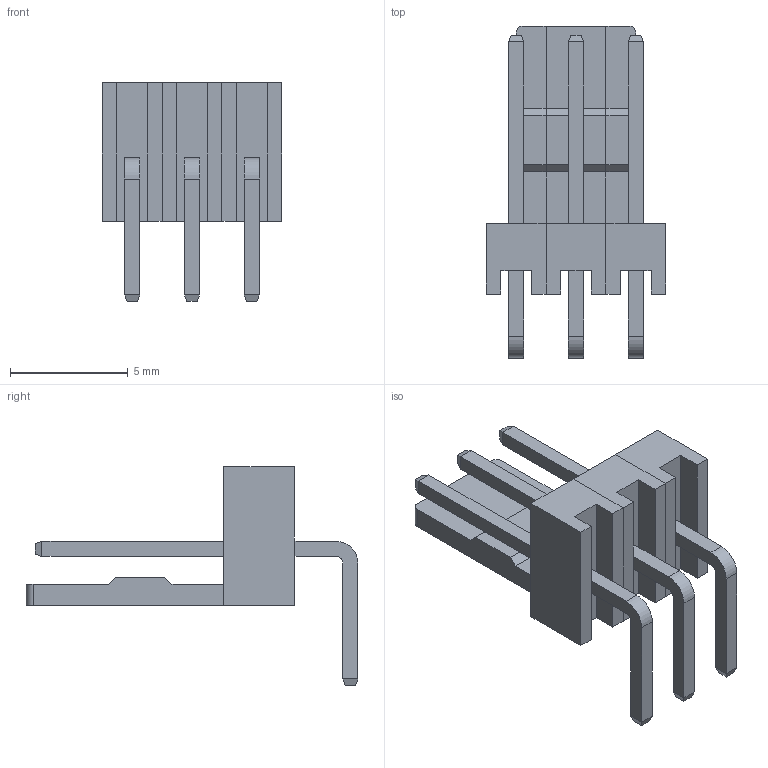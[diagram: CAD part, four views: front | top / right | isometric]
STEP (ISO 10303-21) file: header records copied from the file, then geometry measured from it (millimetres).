
FILE_DESCRIPTION(/* description */ (''),/* implementation_level */ '2;1');
FILE_NAME(/* name */ 'D:\_Work\Altium\AltiumBase\Component''s Body\Inventor\WF\WF-03R.stp',/* time_stamp */ '2020-05-21T11:08:20+03:00',/* author */ ('perevozchikovaa'),/* organization */ (''),/* preprocessor_version */ 'ST-DEVELOPER v17.2',/* originating_system */ 'Autodesk Inventor 2019',/* authorisation */ '');
FILE_SCHEMA (('AUTOMOTIVE_DESIGN { 1 0 10303 214 3 1 1 }'));
Length unit declared in the file: millimetre
Products named in the file (4): Сборка1; WFRl; WFRr; WFRm
Assembly tree (3 placements, depth 2):
  Сборка1
    WFRl
    WFRr
    WFRm
Bounding box: 7.62 x 14.1 x 9.3 mm (x, y, z)
Volume: 174.5 mm3; surface area: 533.7 mm2
Topology: 3 solids, 3 shells, 118 faces, 294 edges, 188 vertices
Faces by surface type: plane 110, cylinder 8
Entity records: 3737 total; most frequent: CARTESIAN_POINT 607, ORIENTED_EDGE 588, DIRECTION 560, EDGE_CURVE 294, LINE 278, VECTOR 278, VERTEX_POINT 188, AXIS2_PLACEMENT_3D 141
